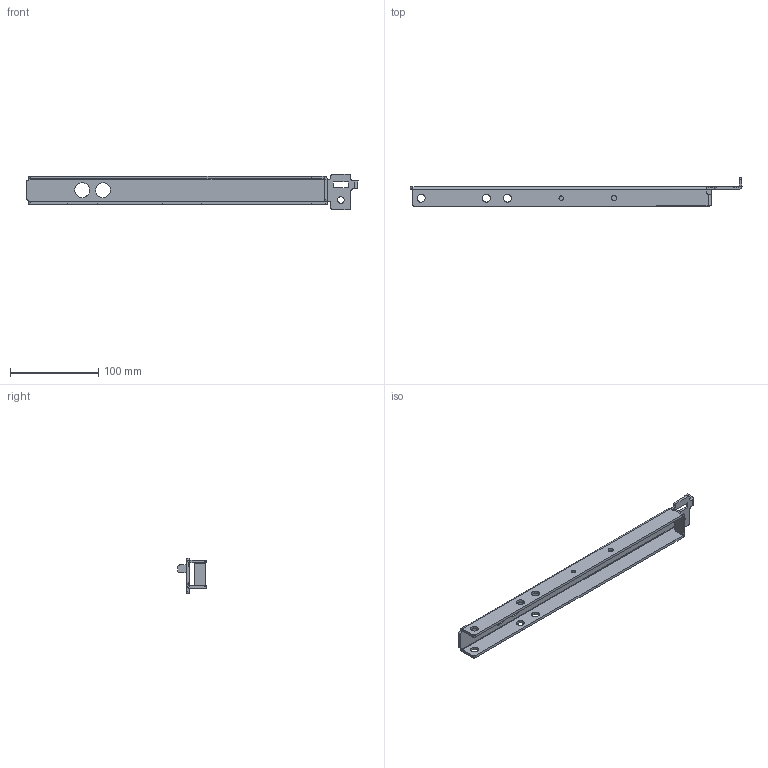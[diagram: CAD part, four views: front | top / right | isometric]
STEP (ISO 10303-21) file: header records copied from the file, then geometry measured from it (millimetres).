
FILE_DESCRIPTION(('CATIA V5 STEP Exchange'),'2;1');
FILE_NAME('C:\Users\nobody\Desktop\SQX3000-6805414_E.stp','2025-06-11T07:50:16+00:00',('none'),('none'),'CATIA Version 5 Release 20 GA (IN-10)','CATIA V5 STEP AP203 Edition 2','none');
FILE_SCHEMA(('AP203_CONFIGURATION_CONTROLLED_3D_DESIGN_OF_MECHANICAL_PARTS_AND_ASSEMBLIES_MIM_LF { 1 0 10303 403 2 1 2}'));
Length unit declared in the file: millimetre
Products named in the file (1): SQX3000-6805414
Bounding box: 377 x 32.29 x 40 mm (x, y, z)
Volume: 70876.5 mm3; surface area: 51339.9 mm2
Topology: 1 solids, 1 shells, 142 faces, 415 edges, 275 vertices
Faces by surface type: cylinder 72, plane 51, bspline 17, extrusion 2
Entity records: 5627 total; most frequent: CARTESIAN_POINT 2102, ORIENTED_EDGE 830, DIRECTION 531, EDGE_CURVE 415, VERTEX_POINT 275, AXIS2_PLACEMENT_3D 224, VECTOR 194, LINE 192
